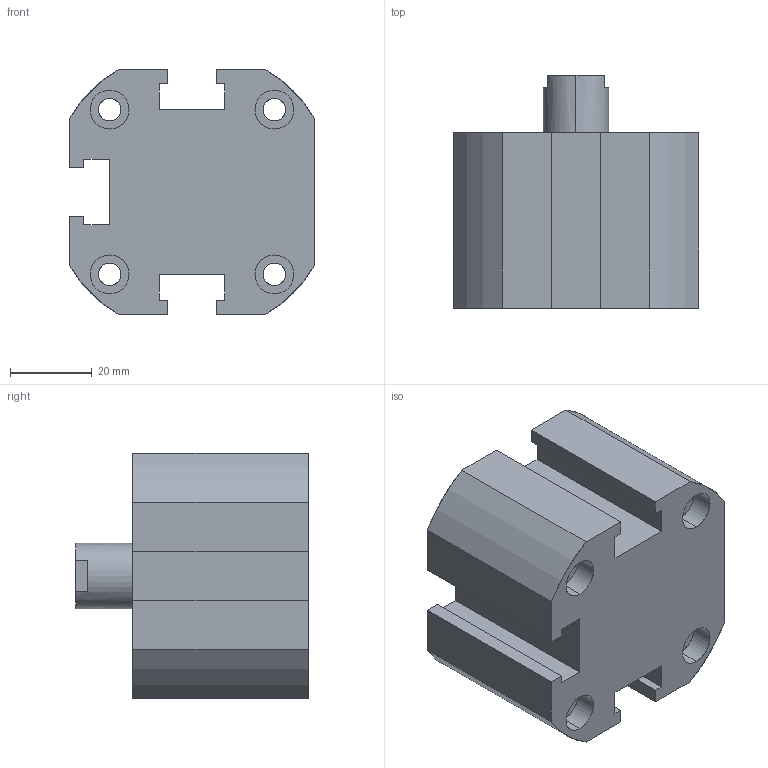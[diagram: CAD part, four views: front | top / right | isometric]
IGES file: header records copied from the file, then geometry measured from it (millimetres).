
Start section: SolidWorks IGES file using analytic representation for surfaces
Global section: file name: C:\Users\Toshiba\Desktop\XC#0-40D-10.IGS; native system: SolidWorks 2014; preprocessor: SolidWorks 2014; author: Toshiba; date: 160523.150304; units: millimetre
Bounding box: 60 x 57 x 60 mm (x, y, z)
Surface area: 23556.9 mm2 (no closed solid volume)
Topology: 0 solids, 0 shells, 107 faces, 1894 edges, 1890 vertices
Faces by surface type: revolution 58, bspline 49
